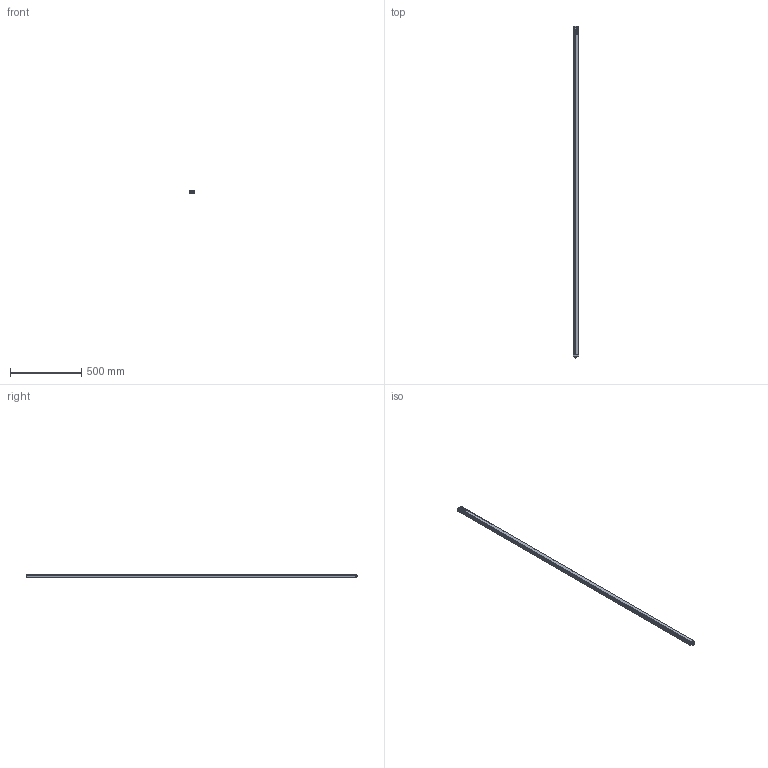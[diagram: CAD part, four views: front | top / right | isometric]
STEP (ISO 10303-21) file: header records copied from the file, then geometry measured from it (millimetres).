
FILE_DESCRIPTION(/* description */ (''),/* implementation_level */ '2;1');
FILE_NAME(/* name */ 'C:\Users\andre\SynologyDrive\Optoscan\Libreria Componenti\00 - Barriere\Polaris sorgente\Polaris_2300_TX.stp',/* time_stamp */ '2021-06-04T11:28:47+02:00',/* author */ ('andre'),/* organization */ (''),/* preprocessor_version */ 'ST-DEVELOPER v18',/* originating_system */ 'Autodesk Inventor 2020',/* authorisation */ '');
FILE_SCHEMA (('AUTOMOTIVE_DESIGN { 1 0 10303 214 3 1 1 }'));
Length unit declared in the file: millimetre
Products named in the file (1): Polaris_2300_TX
Bounding box: 40.5 x 2336.8 x 20.75 mm (x, y, z)
Volume: 458675.7 mm3; surface area: 607343.6 mm2
Topology: 1 solids, 1 shells, 738 faces, 2048 edges, 1320 vertices
Faces by surface type: plane 331, cylinder 207, bspline 115, torus 71, cone 8, sphere 6
Full cylindrical faces by diameter (mm): 1 x8, 2.459 x4, 2.5 x4, 3 x4, 3.5 x4, 5.5 x4, 8 x1, 10.5 x2, 11.75 x9, 12 x1, 12.3 x2, 14.5 x1, 16.7 x1, 17.5 x1
Entity records: 30426 total; most frequent: CARTESIAN_POINT 11243, ORIENTED_EDGE 4082, DIRECTION 3549, EDGE_CURVE 2041, VERTEX_POINT 1321, AXIS2_PLACEMENT_3D 1243, LINE 1063, VECTOR 1063
